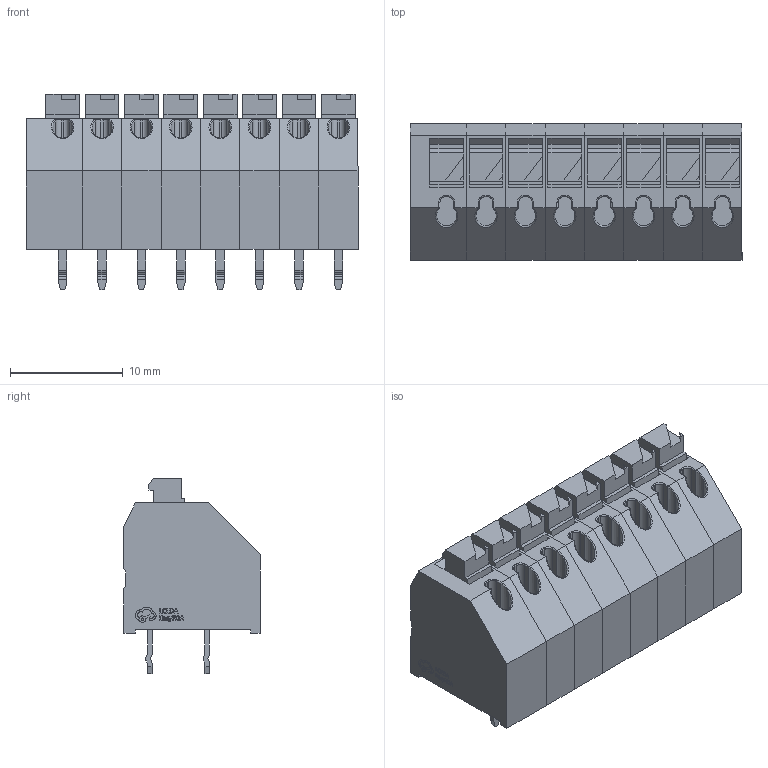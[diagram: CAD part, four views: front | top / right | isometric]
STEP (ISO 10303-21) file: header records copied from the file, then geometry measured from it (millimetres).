
FILE_DESCRIPTION (( 'STEP AP214' ), '1' );
FILE_NAME ('CONN-TH_8P-P3.50-LS5.10_MX250-3.5-08P-B-GY01-CU-A.STEP', '2024-05-08T12:33:37', ( '' ), ( '' ), 'SwSTEP 2.0', 'SolidWorks 2020', '' );
FILE_SCHEMA (( 'AUTOMOTIVE_DESIGN' ));
Length unit declared in the file: millimetre
Products named in the file (1): CONN-TH_8P-P3.50-LS5.10_MX250-3.5-08P-B-GY01-CU-A
Bounding box: 29.51 x 12.1 x 17.4 mm (x, y, z)
Volume: 3685.9 mm3; surface area: 3994.6 mm2
Topology: 29 solids, 29 shells, 1016 faces, 2561 edges, 1686 vertices
Faces by surface type: plane 656, cylinder 238, bspline 106, torus 16
Entity records: 42882 total; most frequent: CARTESIAN_POINT 7594, ORIENTED_EDGE 5122, DIRECTION 4555, EDGE_CURVE 2561, VECTOR 1829, LINE 1829, VERTEX_POINT 1686, AXIS2_PLACEMENT_3D 1363
